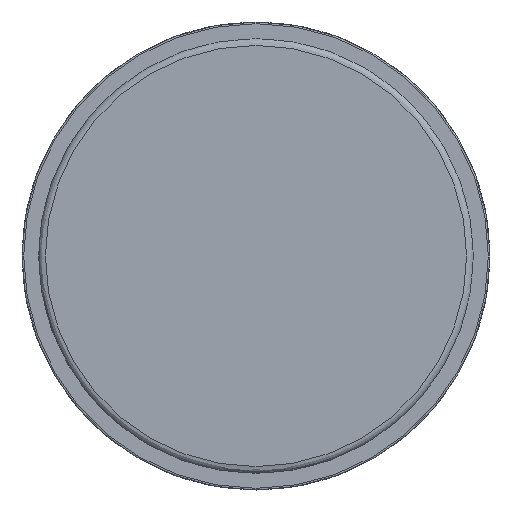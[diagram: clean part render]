
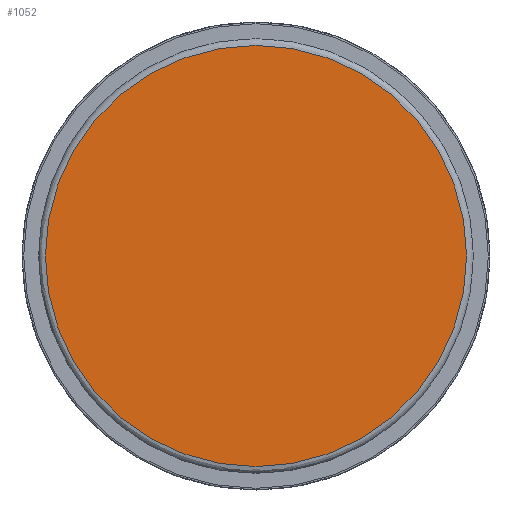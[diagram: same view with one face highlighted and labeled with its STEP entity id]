
A CAD part, left-side view. The second image highlights one B-rep face of the part: STEP entity #1052.
In plain terms, the highlighted planar face has unit normal (-1, 0, 0).
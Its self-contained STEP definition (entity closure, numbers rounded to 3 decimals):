
#1027=CARTESIAN_POINT('',(-528.636,-566.11,78.));
#1028=DIRECTION('',(-1.0,0.0,0.0));
#1029=DIRECTION('',(0.0,1.0,0.0));
#1030=AXIS2_PLACEMENT_3D('',#1027,#1028,#1029);
#1031=PLANE('',#1030);
#1032=CARTESIAN_POINT('',(-528.636,-425.109,0.));
#1033=VERTEX_POINT('',#1032);
#1034=CARTESIAN_POINT('',(-528.636,-551.109,0.));
#1035=VERTEX_POINT('',#1034);
#1036=CARTESIAN_POINT('',(-528.636,-488.109,0.));
#1037=DIRECTION('',(-1.0,0.0,0.));
#1038=DIRECTION('',(0.0,1.0,0.0));
#1039=AXIS2_PLACEMENT_3D('',#1036,#1037,#1038);
#1040=CIRCLE('',#1039,63.);
#1041=EDGE_CURVE('',#1033,#1035,#1040,.T.);
#1042=ORIENTED_EDGE('',*,*,#1041,.T.);
#1043=CARTESIAN_POINT('',(-528.636,-488.109,0.));
#1044=DIRECTION('',(-1.0,0.0,0.));
#1045=DIRECTION('',(0.0,1.0,0.0));
#1046=AXIS2_PLACEMENT_3D('',#1043,#1044,#1045);
#1047=CIRCLE('',#1046,63.);
#1048=EDGE_CURVE('',#1035,#1033,#1047,.T.);
#1049=ORIENTED_EDGE('',*,*,#1048,.T.);
#1050=EDGE_LOOP('',(#1042,#1049));
#1051=FACE_OUTER_BOUND('',#1050,.T.);
#1052=ADVANCED_FACE('',(#1051),#1031,.T.);
